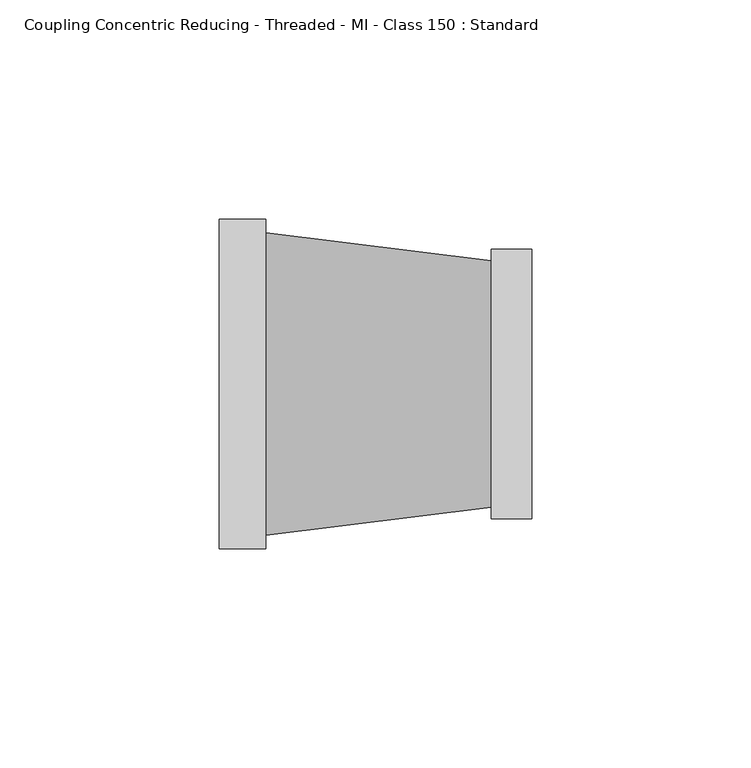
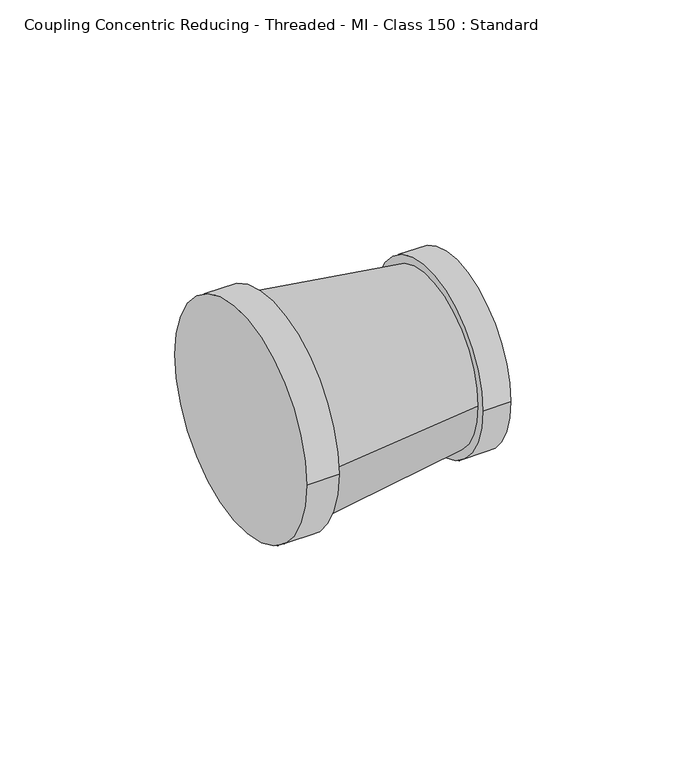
"""IFC4 building model written with IfcOpenShell, lengths in millimetres: pipe fitting geometry, Coupling Concentric Reducing - Threaded - MI - Class 150 : Standard."""

from ifc_helpers import new_model, si_unit, frame, origin, place, context, project, spatial, polyline, circle_curve, source, transform, mapped, element, save
from ifc_brep_helpers import plane_surface, cylinder_surface, revolved_surface, advanced_brep


def coupling_concentric_reducing_threaded_mi_class_150_standard_6ad044ed(model_context):
    return source(origin(), model_context, "Body", "AdvancedBrep", [
        advanced_brep(
        [(10.7, 34.54, 0.0), (62.1, 28.09, 0.0), (62.1, -28.09, 0.0), (10.7, -34.54, 0.0), (71.4, -30.8, 0.0), (71.4, 30.8, 0.0), (62.1, -30.8, 0.0), (62.1, 30.8, 0.0), (10.7, -37.65, 0.0), (10.7, 37.65, 0.0), (0.0, -37.65, 0.0), (0.0, 37.65, 0.0)],
        [
            (0, 1),
            (1, 2, circle_curve(frame((62.1, 0.0, 0.0), z_axis=(-1.0, 0.0, 0.0), x_axis=(0.0, -1.0, 0.0)), 28.09)),
            (2, 3),
            (3, 0, circle_curve(frame((10.7, 0.0, 0.0), z_axis=(1.0, 0.0, 0.0), x_axis=(0.0, -1.0, 0.0)), 34.54)),
            (0, 3, circle_curve(frame((10.7, 0.0, 0.0), z_axis=(1.0, 0.0, 0.0), x_axis=(0.0, 1.0, 0.0)), 34.54)),
            (2, 1, circle_curve(frame((62.1, 0.0, 0.0), z_axis=(-1.0, 0.0, 0.0), x_axis=(0.0, 1.0, 0.0)), 28.09)),
            (4, 5, circle_curve(frame((71.4, 0.0, 0.0), z_axis=(1.0, 0.0, 0.0), x_axis=(0.0, 1.0, 0.0)), 30.8)),
            (5, 4, circle_curve(frame((71.4, 0.0, 0.0), z_axis=(1.0, 0.0, 0.0), x_axis=(0.0, 1.0, 0.0)), 30.8)),
            (6, 7, circle_curve(frame((62.1, 0.0, 0.0), z_axis=(-1.0, 0.0, 0.0), x_axis=(0.0, 1.0, 0.0)), 30.8)),
            (7, 6, circle_curve(frame((62.1, 0.0, 0.0), z_axis=(-1.0, 0.0, 0.0), x_axis=(0.0, 1.0, 0.0)), 30.8)),
            (4, 6),
            (7, 5),
            (8, 9, circle_curve(frame((10.7, 0.0, 0.0), z_axis=(1.0, 0.0, 0.0), x_axis=(0.0, 1.0, 0.0)), 37.65)),
            (9, 8, circle_curve(frame((10.7, 0.0, 0.0), z_axis=(1.0, 0.0, 0.0), x_axis=(0.0, 1.0, 0.0)), 37.65)),
            (10, 11, circle_curve(frame((0.0, 0.0, 0.0), z_axis=(-1.0, 0.0, 0.0), x_axis=(0.0, 1.0, 0.0)), 37.65)),
            (11, 10, circle_curve(frame((0.0, 0.0, 0.0), z_axis=(-1.0, 0.0, 0.0), x_axis=(0.0, 1.0, 0.0)), 37.65)),
            (8, 10),
            (11, 9),
        ],
        [
            revolved_surface(polyline([(62.099999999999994, 28.089999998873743, 0.0), (10.699999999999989, 34.54, 0.0)]), (285.9489922, 0.0, 0.0), (-1.0, 0.0, 0.0)),
            plane_surface(frame((71.4, 30.8, 0.0), z_axis=(1.0, 0.0, 0.0), x_axis=(0.0, 0.0, 1.0))),
            plane_surface(frame((62.1, 30.8, 0.0), z_axis=(-1.0, 0.0, 0.0), x_axis=(0.0, 0.0, -1.0))),
            cylinder_surface(frame((62.1, 0.0, 0.0), z_axis=(1.0, 0.0, 0.0), x_axis=(0.0, 1.0, 0.0)), 30.8),
            plane_surface(frame((10.7, 37.65, 0.0), z_axis=(1.0, 0.0, 0.0), x_axis=(0.0, 0.0, 1.0))),
            plane_surface(frame((0.0, 37.65, 0.0), z_axis=(-1.0, 0.0, 0.0), x_axis=(0.0, 0.0, -1.0))),
            cylinder_surface(frame((0.0, 0.0, 0.0), z_axis=(1.0, 0.0, 0.0), x_axis=(0.0, 1.0, 0.0)), 37.65),
        ],
        [
            (0, [[1, 2, 3, 4]]),
            (0, [[-1, 5, -3, 6]]),
            (1, [[7, 8]]),
            (2, [[9, 10], [-2, -6]]),
            (3, [[-7, 11, -10, 12]]),
            (3, [[-8, -12, -9, -11]]),
            (4, [[13, 14], [-4, -5]]),
            (5, [[15, 16]]),
            (6, [[-13, 17, -16, 18]]),
            (6, [[-14, -18, -15, -17]]),
        ],
    ),
    ])


if __name__ == "__main__":
    model = new_model("IFC4")
    model_context = context("Model", 3, world=origin())
    ifc_project = project(units=[si_unit("LENGTHUNIT", "METRE", prefix="MILLI")], contexts=[model_context])
    site = spatial("IfcSite", under=ifc_project)
    building = spatial("IfcBuilding", under=site)
    placement = place(None, origin())
    coupling_concentric_reducing_threaded_mi_class_150_standard_shape = coupling_concentric_reducing_threaded_mi_class_150_standard_6ad044ed(model_context)
    element("IfcPipeFitting", 1, ObjectType="Coupling Concentric Reducing - Threaded - MI - Class 150 : Standard", at=placement, inside=building, context=model_context, shape_type="MappedRepresentation", body=[
        mapped(coupling_concentric_reducing_threaded_mi_class_150_standard_shape, transform((0.0, 0.0, 0.0), x_axis=(1.0, 0.0, 0.0), y_axis=(0.0, 1.0, 0.0), z_axis=(0.0, 0.0, 1.0))),
    ])
    save(model, "model.ifc")
